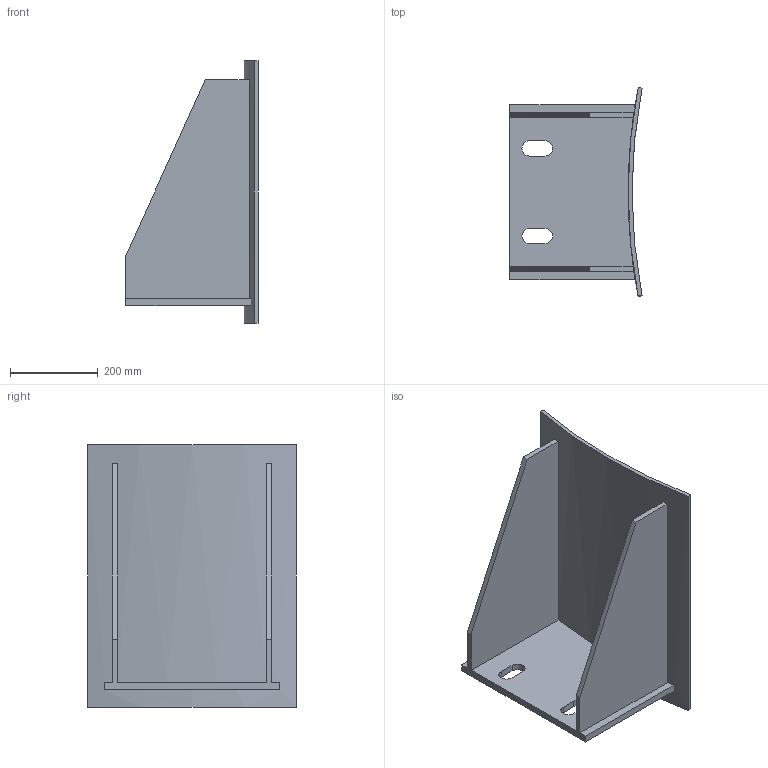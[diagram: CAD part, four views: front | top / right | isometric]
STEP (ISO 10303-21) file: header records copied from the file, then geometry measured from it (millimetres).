
FILE_DESCRIPTION(/* description */ (''),/* implementation_level */ '2;1');
FILE_NAME(/* name */ 'C:\Users\D\Documents\Inventor\HP\JPI\竪型容器用ラグサポート\軽荷重用ラグサポート Light-duty lug support\ld-lug-support-d2450.stp',/* time_stamp */ '2026-02-05T16:55:20+09:00',/* author */ ('D'),/* organization */ (''),/* preprocessor_version */ 'ST-DEVELOPER v18',/* originating_system */ 'Autodesk Inventor 2020',/* authorisation */ '');
FILE_SCHEMA (('AUTOMOTIVE_DESIGN { 1 0 10303 214 3 1 1 }'));
Length unit declared in the file: millimetre
Products named in the file (1): light-duty lug support
Bounding box: 301.93 x 477.02 x 600 mm (x, y, z)
Volume: 6783184.6 mm3; surface area: 1258370.9 mm2
Topology: 1 solids, 1 shells, 31 faces, 80 edges, 52 vertices
Faces by surface type: plane 25, cylinder 6
Entity records: 1001 total; most frequent: CARTESIAN_POINT 166, ORIENTED_EDGE 164, DIRECTION 162, EDGE_CURVE 82, LINE 66, VECTOR 66, VERTEX_POINT 52, AXIS2_PLACEMENT_3D 48
